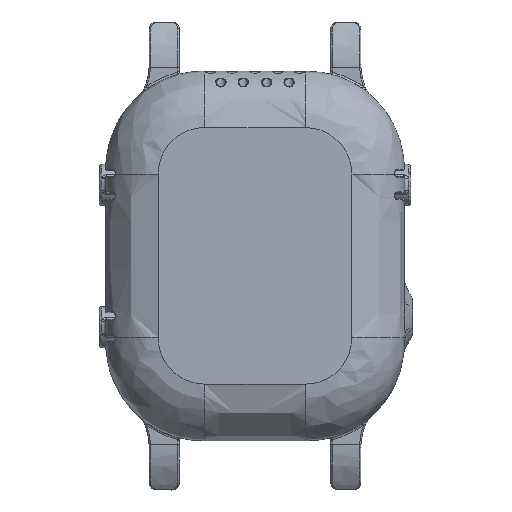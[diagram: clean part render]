
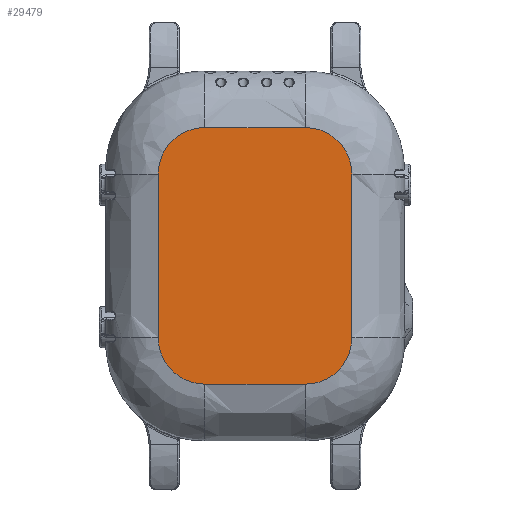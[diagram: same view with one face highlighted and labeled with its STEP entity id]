
A CAD part, top view. The second image highlights one B-rep face of the part: STEP entity #29479.
In plain terms, the highlighted planar face has unit normal (0, 0, 1).
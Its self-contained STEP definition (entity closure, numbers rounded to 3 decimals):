
#481=CARTESIAN_POINT('',(6.698,17.095,54.682));
#486=DIRECTION('',(-1.,0.,0.));
#487=VECTOR('',#486,13.395);
#488=CARTESIAN_POINT('',(6.698,17.095,54.682));
#489=LINE('',#488,#487);
#493=CARTESIAN_POINT('',(-6.697,17.095,54.682));
#1753=DIRECTION('',(0.,-1.,0.));
#1754=VECTOR('',#1753,21.793);
#1755=CARTESIAN_POINT('',(-12.895,10.896,54.682));
#1756=LINE('',#1755,#1754);
#4721=DIRECTION('',(1.,0.,0.));
#4722=VECTOR('',#4721,13.395);
#4723=CARTESIAN_POINT('',(-6.696,-17.095,
54.682));
#4724=LINE('',#4723,#4722);
#4742=CARTESIAN_POINT('',(-12.895,10.896,54.682));
#4743=CARTESIAN_POINT('',(-12.895,11.288,54.682));
#4744=CARTESIAN_POINT('',(-12.818,12.086,54.682));
#4745=CARTESIAN_POINT('',(-12.49,13.203,54.682));
#4746=CARTESIAN_POINT('',(-11.962,14.233,54.682));
#4747=CARTESIAN_POINT('',(-11.38,14.989,54.682));
#4748=CARTESIAN_POINT('',(-10.826,15.532,54.682));
#4749=CARTESIAN_POINT('',(-10.366,15.905,54.682));
#4750=CARTESIAN_POINT('',(-9.862,16.238,54.682));
#4751=CARTESIAN_POINT('',(-9.313,16.528,54.682));
#4752=CARTESIAN_POINT('',(-8.719,16.768,54.682));
#4753=CARTESIAN_POINT('',(-8.069,16.955,54.682));
#4754=CARTESIAN_POINT('',(-7.392,17.069,54.682));
#4755=CARTESIAN_POINT('',(-6.921,17.095,54.682));
#4756=CARTESIAN_POINT('',(-6.697,17.095,54.682));
#4761=CARTESIAN_POINT('',(6.698,17.095,54.682));
#4762=CARTESIAN_POINT('',(6.916,17.094,54.682));
#4763=CARTESIAN_POINT('',(7.393,17.069,54.682));
#4764=CARTESIAN_POINT('',(8.068,16.954,54.682));
#4765=CARTESIAN_POINT('',(8.718,16.767,54.682));
#4766=CARTESIAN_POINT('',(9.511,16.448,54.682));
#4767=CARTESIAN_POINT('',(10.391,15.924,54.682));
#4768=CARTESIAN_POINT('',(11.263,15.14,54.682));
#4769=CARTESIAN_POINT('',(11.962,14.233,54.682));
#4770=CARTESIAN_POINT('',(12.489,13.203,54.682));
#4771=CARTESIAN_POINT('',(12.818,12.085,54.682));
#4772=CARTESIAN_POINT('',(12.895,11.287,54.682));
#4773=CARTESIAN_POINT('',(12.895,10.895,54.682));
#4778=CARTESIAN_POINT('',(12.895,-10.894,54.682));
#4779=CARTESIAN_POINT('',(12.895,-11.287,54.682));
#4780=CARTESIAN_POINT('',(12.818,-12.085,54.682));
#4781=CARTESIAN_POINT('',(12.489,-13.203,54.682));
#4782=CARTESIAN_POINT('',(11.962,-14.233,54.682));
#4783=CARTESIAN_POINT('',(11.263,-15.14,54.682));
#4784=CARTESIAN_POINT('',(10.391,-15.924,54.682));
#4785=CARTESIAN_POINT('',(9.511,-16.448,54.682));
#4786=CARTESIAN_POINT('',(8.718,-16.767,54.682));
#4787=CARTESIAN_POINT('',(8.068,-16.954,54.682));
#4788=CARTESIAN_POINT('',(7.393,-17.069,54.682));
#4789=CARTESIAN_POINT('',(6.917,-17.094,54.682));
#4790=CARTESIAN_POINT('',(6.698,-17.095,54.682));
#4795=CARTESIAN_POINT('',(-6.696,-17.095,
54.682));
#4796=CARTESIAN_POINT('',(-6.92,-17.095,
54.682));
#4797=CARTESIAN_POINT('',(-7.392,-17.069,
54.682));
#4798=CARTESIAN_POINT('',(-8.069,-16.955,
54.682));
#4799=CARTESIAN_POINT('',(-8.719,-16.768,
54.682));
#4800=CARTESIAN_POINT('',(-9.313,-16.528,
54.682));
#4801=CARTESIAN_POINT('',(-9.862,-16.238,
54.682));
#4802=CARTESIAN_POINT('',(-10.366,-15.905,
54.682));
#4803=CARTESIAN_POINT('',(-10.826,-15.532,
54.682));
#4804=CARTESIAN_POINT('',(-11.38,-14.989,
54.682));
#4805=CARTESIAN_POINT('',(-11.962,-14.233,
54.682));
#4806=CARTESIAN_POINT('',(-12.49,-13.203,
54.682));
#4807=CARTESIAN_POINT('',(-12.818,-12.086,
54.682));
#4808=CARTESIAN_POINT('',(-12.895,-11.288,
54.682));
#4809=CARTESIAN_POINT('',(-12.895,-10.897,
54.682));
#7440=CARTESIAN_POINT('',(12.895,-10.894,54.682));
#7445=DIRECTION('',(0.,1.,0.));
#7446=VECTOR('',#7445,21.789);
#7447=CARTESIAN_POINT('',(12.895,-10.894,54.682));
#7448=LINE('',#7447,#7446);
#18682=VERTEX_POINT('',#493);
#18683=VERTEX_POINT('',#4742);
#18688=CARTESIAN_POINT('',(-12.895,-10.897,
54.682));
#18689=VERTEX_POINT('',#18688);
#19097=VERTEX_POINT('',#4795);
#19292=VERTEX_POINT('',#481);
#19350=VERTEX_POINT('',#7440);
#19351=CARTESIAN_POINT('',(12.895,10.895,54.682));
#19352=VERTEX_POINT('',#19351);
#19749=CARTESIAN_POINT('',(6.698,-17.095,
54.682));
#19750=VERTEX_POINT('',#19749);
#29461=CARTESIAN_POINT('',(-7.2,-14.259,
54.682));
#29462=DIRECTION('',(0.,0.,1.));
#29463=DIRECTION('',(0.,-1.,
0.));
#29464=AXIS2_PLACEMENT_3D('',#29461,#29462,#29463);
#29465=PLANE('',#29464);
#29466=ORIENTED_EDGE('',*,*,#23881,.F.);
#29467=ORIENTED_EDGE('',*,*,#23324,.T.);
#29468=ORIENTED_EDGE('',*,*,#21117,.F.);
#29470=ORIENTED_EDGE('',*,*,#29469,.T.);
#29472=ORIENTED_EDGE('',*,*,#29471,.F.);
#29474=ORIENTED_EDGE('',*,*,#29473,.T.);
#29475=ORIENTED_EDGE('',*,*,#29454,.F.);
#29476=ORIENTED_EDGE('',*,*,#27304,.T.);
#29477=EDGE_LOOP('',(#29466,#29467,#29468,#29470,#29472,#29474,#29475,#29476));
#29478=FACE_OUTER_BOUND('',#29477,.F.);
#4757=B_SPLINE_CURVE_WITH_KNOTS('',3,(#4742,#4743,#4744,#4745,#4746,#4747,#4748,
#4749,#4750,#4751,#4752,#4753,#4754,#4755,#4756),.UNSPECIFIED.,.F.,.F.,(4,1,1,1,
1,1,1,1,1,1,1,1,4),(0.,0.121,0.25,0.375,
0.5,0.563,0.625,0.688,
0.75,0.813,0.875,0.942,1.),
.UNSPECIFIED.);
#4774=B_SPLINE_CURVE_WITH_KNOTS('',3,(#4761,#4762,#4763,#4764,#4765,#4766,#4767,
#4768,#4769,#4770,#4771,#4772,#4773),.UNSPECIFIED.,.F.,.F.,(4,1,1,1,1,1,1,1,1,1,
4),(0.,0.058,0.125,0.188,
0.25,0.375,0.5,0.625,
0.75,0.879,1.),.UNSPECIFIED.);
#4791=B_SPLINE_CURVE_WITH_KNOTS('',3,(#4778,#4779,#4780,#4781,#4782,#4783,#4784,
#4785,#4786,#4787,#4788,#4789,#4790),.UNSPECIFIED.,.F.,.F.,(4,1,1,1,1,1,1,1,1,1,
4),(0.,0.121,0.25,0.375,
0.5,0.625,0.75,0.812,
0.875,0.942,1.),.UNSPECIFIED.);
#4810=B_SPLINE_CURVE_WITH_KNOTS('',3,(#4795,#4796,#4797,#4798,#4799,#4800,#4801,
#4802,#4803,#4804,#4805,#4806,#4807,#4808,#4809),.UNSPECIFIED.,.F.,.F.,(4,1,1,1,
1,1,1,1,1,1,1,1,4),(0.,0.058,0.125,0.188,
0.25,0.313,0.375,0.438,
0.5,0.625,0.75,0.879,1.),
.UNSPECIFIED.);
#21117=EDGE_CURVE('',#19292,#18682,#489,.T.);
#23324=EDGE_CURVE('',#18683,#18682,#4757,.T.);
#23881=EDGE_CURVE('',#18683,#18689,#1756,.T.);
#27304=EDGE_CURVE('',#19097,#18689,#4810,.T.);
#29454=EDGE_CURVE('',#19097,#19750,#4724,.T.);
#29469=EDGE_CURVE('',#19292,#19352,#4774,.T.);
#29471=EDGE_CURVE('',#19350,#19352,#7448,.T.);
#29473=EDGE_CURVE('',#19350,#19750,#4791,.T.);
#29479=ADVANCED_FACE('',(#29478),#29465,.T.);
